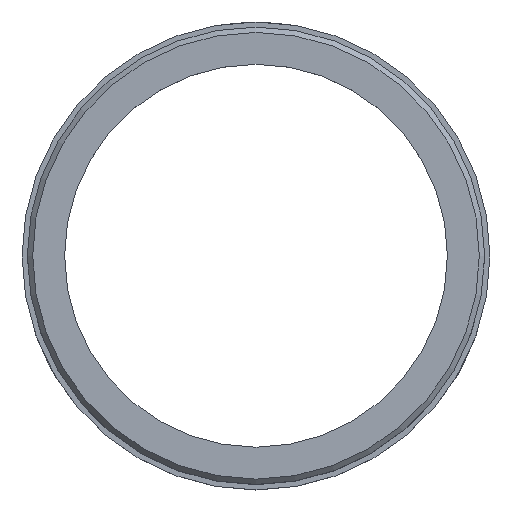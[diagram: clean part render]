
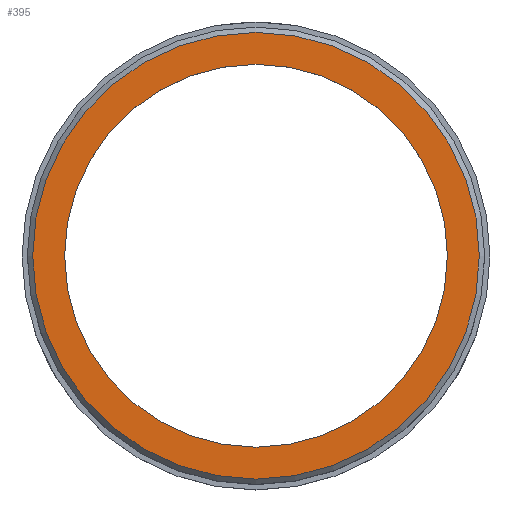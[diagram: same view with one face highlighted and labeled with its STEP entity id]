
A CAD part, top view. The second image highlights one B-rep face of the part: STEP entity #395.
In plain terms, the highlighted planar face has unit normal (0, 0, 1).
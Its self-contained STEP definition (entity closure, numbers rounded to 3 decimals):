
#118 = ORIENTED_EDGE ( 'NONE', *, *, #613, .F. ) ;
#162 = DIRECTION ( 'NONE',  ( 0., 0., 1. ) ) ;
#177 = CARTESIAN_POINT ( 'NONE',  ( 0., 0., 0. ) ) ;
#179 = CIRCLE ( 'NONE', #456, 42. ) ;
#199 = VERTEX_POINT ( 'NONE', #672 ) ;
#229 = DIRECTION ( 'NONE',  ( 1., 0., 0. ) ) ;
#246 = AXIS2_PLACEMENT_3D ( 'NONE', #333, #635, #336 ) ;
#292 = ORIENTED_EDGE ( 'NONE', *, *, #427, .T. ) ;
#333 = CARTESIAN_POINT ( 'NONE',  ( 0., 36., 0. ) ) ;
#336 = DIRECTION ( 'NONE',  ( -1., 0., 0. ) ) ;
#339 = VERTEX_POINT ( 'NONE', #524 ) ;
#395 = ADVANCED_FACE ( 'NONE', ( #430, #616 ), #478, .F. ) ;
#427 = EDGE_CURVE ( 'NONE', #199, #199, #179, .T. ) ;
#430 = FACE_OUTER_BOUND ( 'NONE', #457, .T. ) ;
#448 = CIRCLE ( 'NONE', #580, 36. ) ;
#456 = AXIS2_PLACEMENT_3D ( 'NONE', #482, #162, #533 ) ;
#457 = EDGE_LOOP ( 'NONE', ( #292 ) ) ;
#478 = PLANE ( 'NONE',  #246 ) ;
#482 = CARTESIAN_POINT ( 'NONE',  ( 0., 0., 0. ) ) ;
#524 = CARTESIAN_POINT ( 'NONE',  ( 36., 0., 0. ) ) ;
#533 = DIRECTION ( 'NONE',  ( -1., 0., 0. ) ) ;
#545 = DIRECTION ( 'NONE',  ( 0., 0., 1. ) ) ;
#580 = AXIS2_PLACEMENT_3D ( 'NONE', #177, #545, #229 ) ;
#613 = EDGE_CURVE ( 'NONE', #339, #339, #448, .T. ) ;
#616 = FACE_BOUND ( 'NONE', #668, .T. ) ;
#635 = DIRECTION ( 'NONE',  ( 0., 0., -1. ) ) ;
#668 = EDGE_LOOP ( 'NONE', ( #118 ) ) ;
#672 = CARTESIAN_POINT ( 'NONE',  ( -42., 0., 0. ) ) ;
